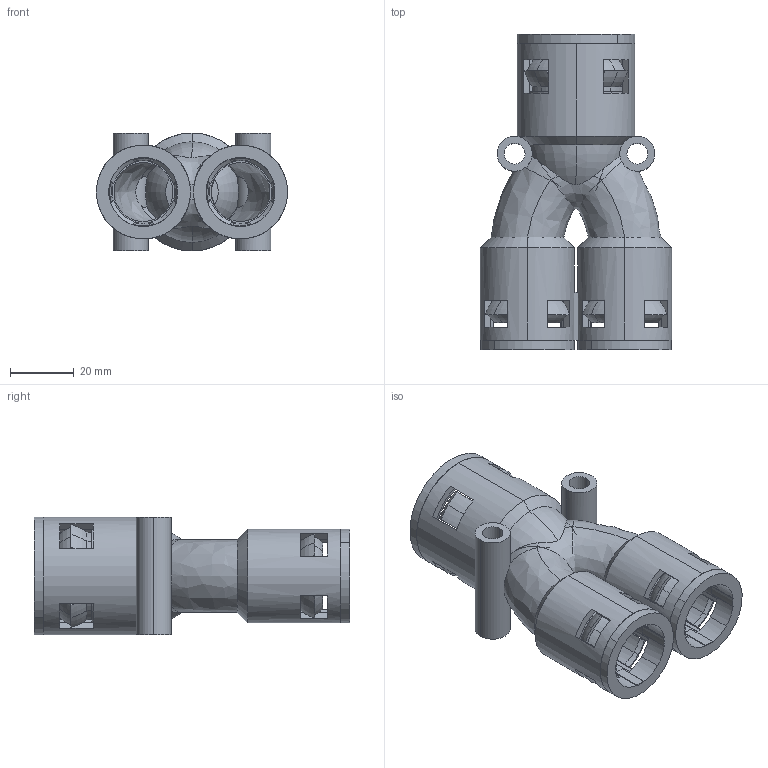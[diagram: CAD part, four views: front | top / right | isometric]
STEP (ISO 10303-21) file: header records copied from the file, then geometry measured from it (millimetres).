
FILE_DESCRIPTION (( 'STEP AP214' ), '1' );
FILE_NAME ('WQY-PA AD28.5-2x21.2.STEP', '2018-03-27T07:34:33', ( '' ), ( '' ), 'SwSTEP 2.0', 'SolidWorks 2016', '' );
FILE_SCHEMA (( 'AUTOMOTIVE_DESIGN' ));
Length unit declared in the file: millimetre
Products named in the file (6): NSK-AD28.5; GFD-AD28.5; NSK-AD21.2; GFD-AD21.2; WQY-PA-AD28.5-2X21.2; WQY-PA AD28.5-2x21.2
Assembly tree (7 placements, depth 2):
  WQY-PA AD28.5-2x21.2
    WQY-PA-AD28.5-2X21.2
    GFD-AD21.2  x2
    NSK-AD21.2  x2
    GFD-AD28.5
    NSK-AD28.5
Bounding box: 60 x 99 x 37 mm (x, y, z)
Volume: 46030.5 mm3; surface area: 49779.7 mm2
Topology: 13 solids, 13 shells, 559 faces, 1440 edges, 899 vertices
Faces by surface type: plane 232, cone 131, cylinder 84, torus 80, bspline 32
Entity records: 14854 total; most frequent: CARTESIAN_POINT 4217, DIRECTION 2235, ORIENTED_EDGE 2180, EDGE_CURVE 1090, AXIS2_PLACEMENT_3D 904, VERTEX_POINT 685, CIRCLE 507, EDGE_LOOP 475
